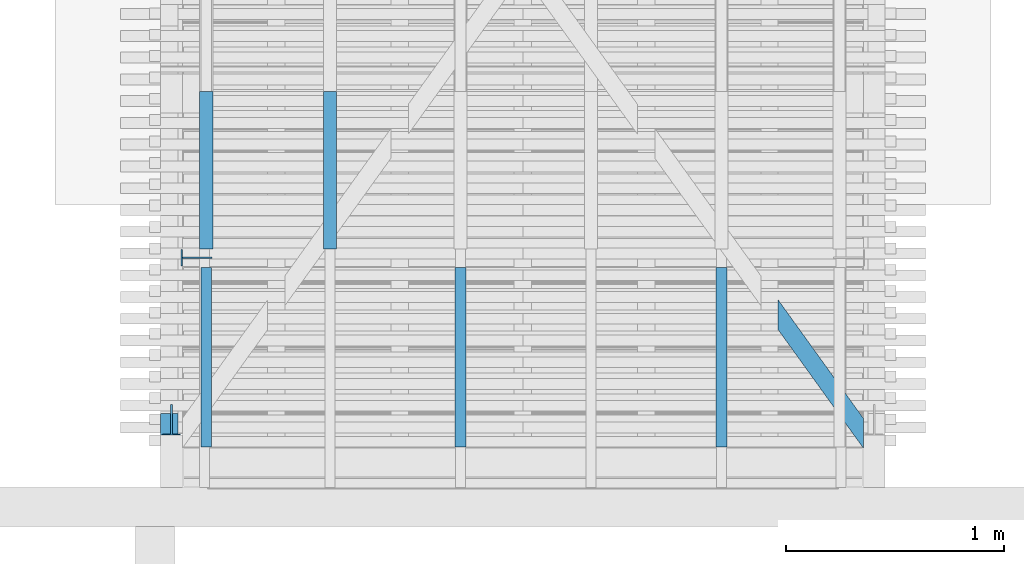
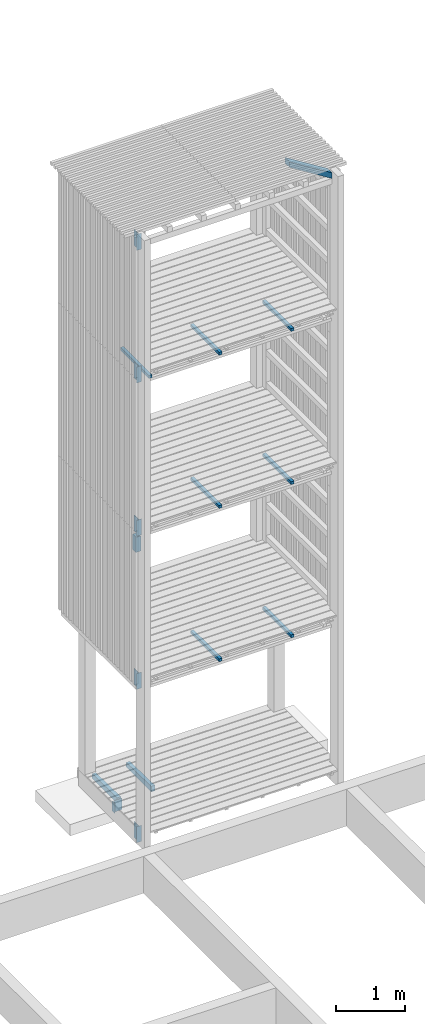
# One storey, part 178 of 182: 17 beams.
"""IFC2X3 building model written with IfcOpenShell, lengths in metres."""

from ifc_helpers import new_model, si_unit, frame, origin, place, context, project, spatial, faceted_brep, element, save


model = new_model("IFC2X3")

# Units and contexts
model_context = context("Model", 3, precision=1e-06, world=origin())
ifc_project = project(units=[si_unit("LENGTHUNIT", "METRE"), si_unit("PLANEANGLEUNIT", "RADIAN")], contexts=[model_context])

# Site, building, storey
site = spatial("IfcSite", under=ifc_project, CompositionType="ELEMENT")
building = spatial("IfcBuilding", under=site, CompositionType="ELEMENT")
storey = spatial("IfcBuildingStorey", under=building, Name="vs", CompositionType="ELEMENT", Elevation=-0.85)

# Beams
placement = place(None, origin())
beam_1_placement = place(placement, frame((34.432999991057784, 10.655077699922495, 5.217999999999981), z_axis=(0.0, 0.0, 1.0), x_axis=(0.0, 1.0, 0.0)))
element("IfcBeam", 1, at=beam_1_placement, inside=storey, Name="Calage", context=model_context, shape_type="Brep", body=[
    faceted_brep([(0.824999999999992, -0.025000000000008, 0.024999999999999), (0.824999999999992, 0.024999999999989, 0.024999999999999), (-1e-15, 0.024999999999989, 0.024999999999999), (-1e-15, -0.025000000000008, 0.024999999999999), (-1e-15, 0.024999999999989, 0.024999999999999), (0.824999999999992, 0.024999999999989, 0.024999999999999), (0.824999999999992, 0.024999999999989, -0.025), (-1e-15, 0.024999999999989, -0.025), (0.824999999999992, 0.024999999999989, 0.024999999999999), (0.824999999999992, -0.025000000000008, 0.024999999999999), (0.824999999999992, -0.025000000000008, -0.025), (0.824999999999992, 0.024999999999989, -0.025), (0.824999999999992, -0.025000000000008, -0.025), (0.824999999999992, -0.025000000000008, 0.024999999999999), (-1e-15, -0.025000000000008, 0.024999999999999), (-1e-15, -0.025000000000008, -0.025), (-1e-15, 0.024999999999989, -0.025), (0.824999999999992, 0.024999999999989, -0.025), (0.824999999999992, -0.025000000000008, -0.025), (-1e-15, -0.025000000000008, -0.025), (-1e-15, 0.024999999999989, 0.024999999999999), (-1e-15, 0.024999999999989, -0.025), (-1e-15, -0.025000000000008, -0.025), (-1e-15, -0.025000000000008, 0.024999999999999)], [[[0, 1, 2, 3]], [[4, 5, 6, 7]], [[8, 9, 10, 11]], [[12, 13, 14, 15]], [[16, 17, 18, 19]], [[20, 21, 22, 23]]]),
])
for number, where, z_axis, x_axis in (
    (2, (35.63299999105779, 10.655077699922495, 7.917999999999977), (0.0, 0.0, 1.0), (0.0, 1.0, 0.0)),
    (3, (35.63299999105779, 10.655077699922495, 5.217999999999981), (0.0, 0.0, 1.0), (0.0, 1.0, 0.0)),
):
    element("IfcBeam", number, at=place(placement, frame(where, z_axis=z_axis, x_axis=x_axis)), inside=storey, Name="Calage", context=model_context, shape_type="Brep", body=[
        faceted_brep([(0.824999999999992, -0.025000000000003, 0.024999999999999), (0.824999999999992, 0.024999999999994, 0.024999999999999), (-1e-15, 0.024999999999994, 0.024999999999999), (-1e-15, -0.025000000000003, 0.024999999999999), (-1e-15, 0.024999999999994, 0.024999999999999), (0.824999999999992, 0.024999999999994, 0.024999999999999), (0.824999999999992, 0.024999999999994, -0.025), (-1e-15, 0.024999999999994, -0.025), (0.824999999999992, 0.024999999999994, 0.024999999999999), (0.824999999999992, -0.025000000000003, 0.024999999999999), (0.824999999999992, -0.025000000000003, -0.025), (0.824999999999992, 0.024999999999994, -0.025), (0.824999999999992, -0.025000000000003, -0.025), (0.824999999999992, -0.025000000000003, 0.024999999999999), (-1e-15, -0.025000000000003, 0.024999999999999), (-1e-15, -0.025000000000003, -0.025), (-1e-15, 0.024999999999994, -0.025), (0.824999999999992, 0.024999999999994, -0.025), (0.824999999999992, -0.025000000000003, -0.025), (-1e-15, -0.025000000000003, -0.025), (-1e-15, 0.024999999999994, 0.024999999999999), (-1e-15, 0.024999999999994, -0.025), (-1e-15, -0.025000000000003, -0.025), (-1e-15, -0.025000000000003, 0.024999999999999)], [[[0, 1, 2, 3]], [[4, 5, 6, 7]], [[8, 9, 10, 11]], [[12, 13, 14, 15]], [[16, 17, 18, 19]], [[20, 21, 22, 23]]]),
    ])
beam_2_placement = place(placement, frame((36.317471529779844, 10.673435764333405, 10.404999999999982), z_axis=(0.0, 0.0, 1.0), x_axis=(-0.58395161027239, 0.811788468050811, 0.0)))
element("IfcBeam", 4, at=beam_2_placement, inside=storey, Name="Support bardage", context=model_context, shape_type="Brep", body=[
    faceted_brep([(2e-15, 0.040000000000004, -0.050000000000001), (0.111213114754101, -0.039999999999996, -0.049999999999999), (0.111213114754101, -0.039999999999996, 0.050000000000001), (2e-15, 0.040000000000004, 0.050000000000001), (0.111213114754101, -0.039999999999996, -0.049999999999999), (2e-15, 0.040000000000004, -0.050000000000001), (0.670717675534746, 0.04, -0.050000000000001), (0.781930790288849, -0.040000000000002, -0.050000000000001), (0.111213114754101, -0.039999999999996, 0.050000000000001), (0.111213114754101, -0.039999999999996, -0.049999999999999), (0.781930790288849, -0.040000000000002, -0.050000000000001), (0.781930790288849, -0.040000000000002, 0.050000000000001), (2e-15, 0.040000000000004, 0.050000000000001), (0.111213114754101, -0.039999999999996, 0.050000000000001), (0.781930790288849, -0.040000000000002, 0.050000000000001), (0.670717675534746, 0.04, 0.050000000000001), (0.670717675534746, 0.04, -0.050000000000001), (2e-15, 0.040000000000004, -0.050000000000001), (2e-15, 0.040000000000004, 0.050000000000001), (0.670717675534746, 0.04, 0.050000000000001), (0.670717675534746, 0.04, 0.050000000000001), (0.781930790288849, -0.040000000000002, 0.050000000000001), (0.781930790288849, -0.040000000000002, -0.050000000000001), (0.670717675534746, 0.04, -0.050000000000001)], [[[0, 1, 2, 3]], [[4, 5, 6, 7]], [[8, 9, 10, 11]], [[12, 13, 14, 15]], [[16, 17, 18, 19]], [[20, 21, 22, 23]]]),
])
beam_3_placement = place(placement, frame((34.432999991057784, 10.655077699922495, 2.517999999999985), z_axis=(0.0, 0.0, 1.0), x_axis=(0.0, 1.0, 0.0)))
element("IfcBeam", 5, at=beam_3_placement, inside=storey, Name="Calage", context=model_context, shape_type="Brep", body=[
    faceted_brep([(0.824999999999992, -0.025000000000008, 0.025), (0.824999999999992, 0.024999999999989, 0.025), (-1e-15, 0.024999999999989, 0.025), (-1e-15, -0.025000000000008, 0.025), (-1e-15, 0.024999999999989, 0.025), (0.824999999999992, 0.024999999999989, 0.025), (0.824999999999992, 0.024999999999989, -0.025), (-1e-15, 0.024999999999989, -0.025), (0.824999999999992, 0.024999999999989, 0.025), (0.824999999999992, -0.025000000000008, 0.025), (0.824999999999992, -0.025000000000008, -0.025), (0.824999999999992, 0.024999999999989, -0.025), (0.824999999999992, -0.025000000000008, -0.025), (0.824999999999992, -0.025000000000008, 0.025), (-1e-15, -0.025000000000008, 0.025), (-1e-15, -0.025000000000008, -0.025), (-1e-15, 0.024999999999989, -0.025), (0.824999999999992, 0.024999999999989, -0.025), (0.824999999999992, -0.025000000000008, -0.025), (-1e-15, -0.025000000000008, -0.025), (-1e-15, 0.024999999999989, 0.025), (-1e-15, 0.024999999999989, -0.025), (-1e-15, -0.025000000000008, -0.025), (-1e-15, -0.025000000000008, 0.025)], [[[0, 1, 2, 3]], [[4, 5, 6, 7]], [[8, 9, 10, 11]], [[12, 13, 14, 15]], [[16, 17, 18, 19]], [[20, 21, 22, 23]]]),
])
beam_4_placement = place(placement, frame((33.83299999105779, 11.565077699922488, -0.091949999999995), z_axis=(0.0, 0.0, 1.0), x_axis=(0.0, 1.0, 0.0)))
element("IfcBeam", 6, at=beam_4_placement, inside=storey, Name="Solive", context=model_context, shape_type="Brep", body=[
    faceted_brep([(0.0, -0.030000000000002, -0.04805), (0.0, 0.030000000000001, -0.04805), (0.725000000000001, 0.030000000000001, -0.04805), (0.725000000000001, -0.030000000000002, -0.04805), (0.725000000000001, -0.030000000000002, 0.033549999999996), (0.0, -0.030000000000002, 0.048049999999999), (0.0, -0.030000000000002, -0.04805), (0.725000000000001, -0.030000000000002, -0.04805), (0.0, -0.030000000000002, 0.048049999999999), (0.725000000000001, -0.030000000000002, 0.033549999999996), (0.725000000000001, 0.030000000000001, 0.033549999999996), (0.0, 0.030000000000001, 0.048049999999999), (0.0, -0.030000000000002, 0.048049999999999), (0.0, 0.030000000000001, 0.048049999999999), (0.0, 0.030000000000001, -0.04805), (0.0, -0.030000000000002, -0.04805), (0.0, 0.030000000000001, -0.04805), (0.0, 0.030000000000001, 0.048049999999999), (0.725000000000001, 0.030000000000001, 0.033549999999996), (0.725000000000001, 0.030000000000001, -0.04805), (0.725000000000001, -0.030000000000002, 0.033549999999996), (0.725000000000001, -0.030000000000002, -0.04805), (0.725000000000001, 0.030000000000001, -0.04805), (0.725000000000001, 0.030000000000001, 0.033549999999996)], [[[0, 1, 2, 3]], [[4, 5, 6, 7]], [[8, 9, 10, 11]], [[12, 13, 14, 15]], [[16, 17, 18, 19]], [[20, 21, 22, 23]]]),
])
beam_5_placement = place(placement, frame((35.63299999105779, 10.655077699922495, 2.517999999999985), z_axis=(0.0, 0.0, 1.0), x_axis=(0.0, 1.0, 0.0)))
element("IfcBeam", 7, at=beam_5_placement, inside=storey, Name="Calage", context=model_context, shape_type="Brep", body=[
    faceted_brep([(0.824999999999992, -0.025000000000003, 0.025), (0.824999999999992, 0.024999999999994, 0.025), (-1e-15, 0.024999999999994, 0.025), (-1e-15, -0.025000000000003, 0.025), (-1e-15, 0.024999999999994, 0.025), (0.824999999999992, 0.024999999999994, 0.025), (0.824999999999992, 0.024999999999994, -0.025), (-1e-15, 0.024999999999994, -0.025), (0.824999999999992, 0.024999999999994, 0.025), (0.824999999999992, -0.025000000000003, 0.025), (0.824999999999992, -0.025000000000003, -0.025), (0.824999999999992, 0.024999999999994, -0.025), (0.824999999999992, -0.025000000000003, -0.025), (0.824999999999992, -0.025000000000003, 0.025), (-1e-15, -0.025000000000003, 0.025), (-1e-15, -0.025000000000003, -0.025), (-1e-15, 0.024999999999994, -0.025), (0.824999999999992, 0.024999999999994, -0.025), (0.824999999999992, -0.025000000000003, -0.025), (-1e-15, -0.025000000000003, -0.025), (-1e-15, 0.024999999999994, 0.025), (-1e-15, 0.024999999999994, -0.025), (-1e-15, -0.025000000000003, -0.025), (-1e-15, -0.025000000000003, 0.025)], [[[0, 1, 2, 3]], [[4, 5, 6, 7]], [[8, 9, 10, 11]], [[12, 13, 14, 15]], [[16, 17, 18, 19]], [[20, 21, 22, 23]]]),
])
beam_6_placement = place(placement, frame((33.26499999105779, 11.565077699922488, -0.091949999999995), z_axis=(0.0, 0.0, 1.0), x_axis=(0.0, 1.0, 0.0)))
element("IfcBeam", 8, at=beam_6_placement, inside=storey, Name="Solive", context=model_context, shape_type="Brep", body=[
    faceted_brep([(0.0, -0.030000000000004, -0.04805), (0.0, 0.029999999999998, -0.04805), (0.725000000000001, 0.029999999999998, -0.04805), (0.725000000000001, -0.030000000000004, -0.04805), (0.725000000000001, -0.030000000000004, 0.033549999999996), (0.0, -0.030000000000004, 0.048049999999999), (0.0, -0.030000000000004, -0.04805), (0.725000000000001, -0.030000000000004, -0.04805), (0.0, -0.030000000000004, 0.048049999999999), (0.725000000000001, -0.030000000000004, 0.033549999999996), (0.725000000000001, 0.029999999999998, 0.033549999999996), (0.0, 0.029999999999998, 0.048049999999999), (0.0, -0.030000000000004, 0.048049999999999), (0.0, 0.029999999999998, 0.048049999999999), (0.0, 0.029999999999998, -0.04805), (0.0, -0.030000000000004, -0.04805), (0.0, 0.029999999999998, -0.04805), (0.0, 0.029999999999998, 0.048049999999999), (0.725000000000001, 0.029999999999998, 0.033549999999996), (0.725000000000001, 0.029999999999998, -0.04805), (0.725000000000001, -0.030000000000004, 0.033549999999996), (0.725000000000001, -0.030000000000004, -0.04805), (0.725000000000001, 0.029999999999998, -0.04805), (0.725000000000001, 0.029999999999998, 0.033549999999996)], [[[0, 1, 2, 3]], [[4, 5, 6, 7]], [[8, 9, 10, 11]], [[12, 13, 14, 15]], [[16, 17, 18, 19]], [[20, 21, 22, 23]]]),
])
beam_7_placement = place(placement, frame((33.0639999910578, 10.781077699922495, 10.314999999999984), z_axis=(0.0, 0.0, 1.0), x_axis=(1.0, 0.0, 0.0)))
element("IfcBeam", 9, at=beam_7_placement, inside=storey, Name="Contre-usinage", context=model_context, shape_type="Brep", body=[
    faceted_brep([(0.037000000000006, -0.065999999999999, -0.140000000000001), (0.037000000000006, 0.071000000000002, -0.140000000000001), (0.045000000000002, 0.071000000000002, -0.140000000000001), (0.045000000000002, -0.065999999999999, -0.140000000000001), (0.081999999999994, -0.065999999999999, -0.140000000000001), (0.081999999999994, -0.071000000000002, -0.140000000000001), (0.0, -0.071000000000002, -0.140000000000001), (0.0, -0.065999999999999, -0.140000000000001), (0.045000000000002, 0.071000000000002, -0.140000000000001), (0.037000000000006, 0.071000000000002, -0.140000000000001), (0.037000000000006, 0.071000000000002, 0.140000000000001), (0.045000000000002, 0.071000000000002, 0.140000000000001), (0.045000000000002, -0.065999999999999, 0.140000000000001), (0.045000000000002, -0.065999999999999, -0.140000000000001), (0.045000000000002, 0.071000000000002, -0.140000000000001), (0.045000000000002, 0.071000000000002, 0.140000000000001), (0.081999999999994, -0.065999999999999, -0.140000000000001), (0.045000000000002, -0.065999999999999, -0.140000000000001), (0.045000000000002, -0.065999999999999, 0.140000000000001), (0.081999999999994, -0.065999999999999, 0.140000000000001), (0.081999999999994, -0.071000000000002, -0.140000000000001), (0.081999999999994, -0.065999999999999, -0.140000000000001), (0.081999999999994, -0.065999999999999, 0.140000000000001), (0.081999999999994, -0.071000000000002, 0.140000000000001), (0.0, -0.071000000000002, -0.140000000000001), (0.081999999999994, -0.071000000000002, -0.140000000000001), (0.081999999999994, -0.071000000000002, 0.140000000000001), (0.0, -0.071000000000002, 0.140000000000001), (0.0, -0.065999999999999, -0.140000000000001), (0.0, -0.071000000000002, -0.140000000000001), (0.0, -0.071000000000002, 0.140000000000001), (0.0, -0.065999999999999, 0.140000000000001), (0.037000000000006, -0.065999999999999, -0.140000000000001), (0.0, -0.065999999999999, -0.140000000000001), (0.0, -0.065999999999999, 0.140000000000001), (0.037000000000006, -0.065999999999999, 0.140000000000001), (0.037000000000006, 0.071000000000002, 0.140000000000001), (0.037000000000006, 0.071000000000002, -0.140000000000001), (0.037000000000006, -0.065999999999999, -0.140000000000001), (0.037000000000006, -0.065999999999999, 0.140000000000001), (0.081999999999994, -0.065999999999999, 0.140000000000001), (0.045000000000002, -0.065999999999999, 0.140000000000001), (0.045000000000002, 0.071000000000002, 0.140000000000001), (0.037000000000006, 0.071000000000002, 0.140000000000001), (0.037000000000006, -0.065999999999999, 0.140000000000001), (0.0, -0.065999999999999, 0.140000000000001), (0.0, -0.071000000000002, 0.140000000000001), (0.081999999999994, -0.071000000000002, 0.140000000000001)], [[[0, 1, 2, 3, 4, 5, 6, 7]], [[8, 9, 10, 11]], [[12, 13, 14, 15]], [[16, 17, 18, 19]], [[20, 21, 22, 23]], [[24, 25, 26, 27]], [[28, 29, 30, 31]], [[32, 33, 34, 35]], [[36, 37, 38, 39]], [[40, 41, 42, 43, 44, 45, 46, 47]]]),
])
beam_8_placement = place(placement, frame((34.4329999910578, 10.655077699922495, 7.917999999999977), z_axis=(0.0, 0.0, 1.0), x_axis=(0.0, 1.0, 0.0)))
element("IfcBeam", 10, at=beam_8_placement, inside=storey, Name="Calage", context=model_context, shape_type="Brep", body=[
    faceted_brep([(0.824999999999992, -0.024999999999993, 0.024999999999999), (0.824999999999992, 0.025000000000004, 0.024999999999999), (-1e-15, 0.025000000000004, 0.024999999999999), (-1e-15, -0.024999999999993, 0.024999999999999), (-1e-15, 0.025000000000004, 0.024999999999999), (0.824999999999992, 0.025000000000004, 0.024999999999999), (0.824999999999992, 0.025000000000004, -0.025), (-1e-15, 0.025000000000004, -0.025), (0.824999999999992, 0.025000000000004, 0.024999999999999), (0.824999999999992, -0.024999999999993, 0.024999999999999), (0.824999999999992, -0.024999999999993, -0.025), (0.824999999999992, 0.025000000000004, -0.025), (0.824999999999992, -0.024999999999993, -0.025), (0.824999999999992, -0.024999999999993, 0.024999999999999), (-1e-15, -0.024999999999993, 0.024999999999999), (-1e-15, -0.024999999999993, -0.025), (-1e-15, 0.025000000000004, -0.025), (0.824999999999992, 0.025000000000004, -0.025), (0.824999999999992, -0.024999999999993, -0.025), (-1e-15, -0.024999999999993, -0.025), (-1e-15, 0.025000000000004, 0.024999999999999), (-1e-15, 0.025000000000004, -0.025), (-1e-15, -0.024999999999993, -0.025), (-1e-15, -0.024999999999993, 0.024999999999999)], [[[0, 1, 2, 3]], [[4, 5, 6, 7]], [[8, 9, 10, 11]], [[12, 13, 14, 15]], [[16, 17, 18, 19]], [[20, 21, 22, 23]]]),
])
beam_9_placement = place(placement, frame((33.220999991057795, 11.525077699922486, -0.243899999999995), z_axis=(1.0, 0.0, 0.0), x_axis=(0.0, 0.0, 1.0)))
element("IfcBeam", 11, at=beam_9_placement, inside=storey, Name="Contre-usinage", context=model_context, shape_type="Brep", body=[
    faceted_brep([(0.2, 0.004000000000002, -0.066000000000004), (0.2, -0.004000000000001, -0.066000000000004), (0.175, -0.004000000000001, -0.066000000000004), (0.175, 0.004000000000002, -0.066000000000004), (0.175, -0.004000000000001, -0.066000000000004), (0.0, -0.004000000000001, -0.066000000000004), (0.0, -0.038, -0.066000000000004), (0.175, -0.038, -0.066000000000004), (0.175, 0.038000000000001, -0.066000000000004), (0.0, 0.038000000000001, -0.066000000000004), (0.0, 0.004000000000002, -0.066000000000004), (0.175, 0.004000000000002, -0.066000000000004), (0.2, 0.004000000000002, -0.066000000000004), (0.175, 0.004000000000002, -0.066000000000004), (0.0, 0.004000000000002, -0.066000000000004), (0.0, 0.004000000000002, 0.070999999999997), (0.2, 0.004000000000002, 0.070999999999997), (0.2, 0.004000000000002, 0.070999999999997), (0.0, 0.004000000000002, 0.070999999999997), (0.0, -0.004000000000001, 0.070999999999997), (0.2, -0.004000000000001, 0.070999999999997), (0.175, -0.038, -0.070999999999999), (0.0, -0.038, -0.070999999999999), (0.0, 0.038000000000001, -0.070999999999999), (0.175, 0.038000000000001, -0.070999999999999), (0.2, -0.004000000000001, -0.066000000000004), (0.2, 0.004000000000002, -0.066000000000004), (0.2, 0.004000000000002, 0.070999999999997), (0.2, -0.004000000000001, 0.070999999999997), (0.2, -0.004000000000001, 0.070999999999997), (0.0, -0.004000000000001, 0.070999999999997), (0.0, -0.004000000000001, -0.066000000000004), (0.175, -0.004000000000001, -0.066000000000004), (0.2, -0.004000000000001, -0.066000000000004), (0.175, 0.038000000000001, -0.066000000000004), (0.175, 0.004000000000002, -0.066000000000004), (0.175, -0.004000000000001, -0.066000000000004), (0.175, -0.038, -0.066000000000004), (0.175, -0.038, -0.070999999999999), (0.175, 0.038000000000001, -0.070999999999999), (0.0, -0.038, -0.066000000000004), (0.0, -0.004000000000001, -0.066000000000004), (0.0, -0.004000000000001, 0.070999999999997), (0.0, 0.004000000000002, 0.070999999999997), (0.0, 0.004000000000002, -0.066000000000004), (0.0, 0.038000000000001, -0.066000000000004), (0.0, 0.038000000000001, -0.070999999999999), (0.0, -0.038, -0.070999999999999), (0.175, -0.038, -0.070999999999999), (0.175, -0.038, -0.066000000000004), (0.0, -0.038, -0.066000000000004), (0.0, -0.038, -0.070999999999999), (0.175, 0.038000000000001, -0.066000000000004), (0.175, 0.038000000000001, -0.070999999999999), (0.0, 0.038000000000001, -0.070999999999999), (0.0, 0.038000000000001, -0.066000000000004)], [[[0, 1, 2, 3]], [[4, 5, 6, 7]], [[8, 9, 10, 11]], [[12, 13, 14, 15, 16]], [[17, 18, 19, 20]], [[21, 22, 23, 24]], [[25, 26, 27, 28]], [[29, 30, 31, 32, 33]], [[34, 35, 36, 37, 38, 39]], [[40, 41, 42, 43, 44, 45, 46, 47]], [[48, 49, 50, 51]], [[52, 53, 54, 55]]]),
])
beam_10_placement = place(placement, frame((33.063999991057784, 10.781077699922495, 2.579999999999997), z_axis=(0.0, 0.0, 1.0), x_axis=(1.0, 0.0, 0.0)))
element("IfcBeam", 12, at=beam_10_placement, inside=storey, Name="Contre-usinage", context=model_context, shape_type="Brep", body=[
    faceted_brep([(0.037000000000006, -0.065999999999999, -0.14), (0.037000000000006, 0.071000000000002, -0.14), (0.045000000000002, 0.071000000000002, -0.14), (0.045000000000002, -0.065999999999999, -0.14), (0.082000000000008, -0.065999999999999, -0.14), (0.082000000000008, -0.071000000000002, -0.14), (0.0, -0.071000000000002, -0.14), (0.0, -0.065999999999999, -0.14), (0.045000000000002, 0.071000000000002, -0.14), (0.037000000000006, 0.071000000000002, -0.14), (0.037000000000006, 0.071000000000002, 0.14), (0.045000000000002, 0.071000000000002, 0.14), (0.045000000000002, -0.065999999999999, 0.14), (0.045000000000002, -0.065999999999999, -0.14), (0.045000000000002, 0.071000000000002, -0.14), (0.045000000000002, 0.071000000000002, 0.14), (0.082000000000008, -0.065999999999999, -0.14), (0.045000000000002, -0.065999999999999, -0.14), (0.045000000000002, -0.065999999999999, 0.14), (0.082000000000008, -0.065999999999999, 0.14), (0.082000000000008, -0.071000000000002, -0.14), (0.082000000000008, -0.065999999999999, -0.14), (0.082000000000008, -0.065999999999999, 0.14), (0.082000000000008, -0.071000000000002, 0.14), (0.0, -0.071000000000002, -0.14), (0.082000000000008, -0.071000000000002, -0.14), (0.082000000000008, -0.071000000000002, 0.14), (0.0, -0.071000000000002, 0.14), (0.0, -0.065999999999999, -0.14), (0.0, -0.071000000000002, -0.14), (0.0, -0.071000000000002, 0.14), (0.0, -0.065999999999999, 0.14), (0.037000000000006, -0.065999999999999, -0.14), (0.0, -0.065999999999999, -0.14), (0.0, -0.065999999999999, 0.14), (0.037000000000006, -0.065999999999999, 0.14), (0.037000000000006, 0.071000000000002, 0.14), (0.037000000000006, 0.071000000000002, -0.14), (0.037000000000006, -0.065999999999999, -0.14), (0.037000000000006, -0.065999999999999, 0.14), (0.082000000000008, -0.065999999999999, 0.14), (0.045000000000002, -0.065999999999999, 0.14), (0.045000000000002, 0.071000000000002, 0.14), (0.037000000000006, 0.071000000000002, 0.14), (0.037000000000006, -0.065999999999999, 0.14), (0.0, -0.065999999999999, 0.14), (0.0, -0.071000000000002, 0.14), (0.082000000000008, -0.071000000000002, 0.14)], [[[0, 1, 2, 3, 4, 5, 6, 7]], [[8, 9, 10, 11]], [[12, 13, 14, 15]], [[16, 17, 18, 19]], [[20, 21, 22, 23]], [[24, 25, 26, 27]], [[28, 29, 30, 31]], [[32, 33, 34, 35]], [[36, 37, 38, 39]], [[40, 41, 42, 43, 44, 45, 46, 47]]]),
])
beam_11_placement = place(placement, frame((33.063999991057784, 10.781077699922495, -0.119999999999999), z_axis=(0.0, 0.0, 1.0), x_axis=(1.0, 0.0, 0.0)))
element("IfcBeam", 13, at=beam_11_placement, inside=storey, Name="Contre-usinage", context=model_context, shape_type="Brep", body=[
    faceted_brep([(0.037000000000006, -0.065999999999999, -0.14), (0.037000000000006, 0.071000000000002, -0.14), (0.045000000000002, 0.071000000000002, -0.14), (0.045000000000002, -0.065999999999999, -0.14), (0.082000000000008, -0.065999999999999, -0.14), (0.082000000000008, -0.071000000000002, -0.14), (0.0, -0.071000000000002, -0.14), (0.0, -0.065999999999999, -0.14), (0.045000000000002, 0.071000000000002, -0.14), (0.037000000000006, 0.071000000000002, -0.14), (0.037000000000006, 0.071000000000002, 0.14), (0.045000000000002, 0.071000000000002, 0.14), (0.045000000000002, -0.065999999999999, 0.14), (0.045000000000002, -0.065999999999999, -0.14), (0.045000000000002, 0.071000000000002, -0.14), (0.045000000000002, 0.071000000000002, 0.14), (0.082000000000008, -0.065999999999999, -0.14), (0.045000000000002, -0.065999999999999, -0.14), (0.045000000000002, -0.065999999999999, 0.14), (0.082000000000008, -0.065999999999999, 0.14), (0.082000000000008, -0.071000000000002, -0.14), (0.082000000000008, -0.065999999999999, -0.14), (0.082000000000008, -0.065999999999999, 0.14), (0.082000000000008, -0.071000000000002, 0.14), (0.0, -0.071000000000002, -0.14), (0.082000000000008, -0.071000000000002, -0.14), (0.082000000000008, -0.071000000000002, 0.14), (0.0, -0.071000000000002, 0.14), (0.0, -0.065999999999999, -0.14), (0.0, -0.071000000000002, -0.14), (0.0, -0.071000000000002, 0.14), (0.0, -0.065999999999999, 0.14), (0.037000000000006, -0.065999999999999, -0.14), (0.0, -0.065999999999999, -0.14), (0.0, -0.065999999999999, 0.14), (0.037000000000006, -0.065999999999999, 0.14), (0.037000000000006, 0.071000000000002, 0.14), (0.037000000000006, 0.071000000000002, -0.14), (0.037000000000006, -0.065999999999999, -0.14), (0.037000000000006, -0.065999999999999, 0.14), (0.082000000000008, -0.065999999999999, 0.14), (0.045000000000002, -0.065999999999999, 0.14), (0.045000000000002, 0.071000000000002, 0.14), (0.037000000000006, 0.071000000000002, 0.14), (0.037000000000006, -0.065999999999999, 0.14), (0.0, -0.065999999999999, 0.14), (0.0, -0.071000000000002, 0.14), (0.082000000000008, -0.071000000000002, 0.14)], [[[0, 1, 2, 3, 4, 5, 6, 7]], [[8, 9, 10, 11]], [[12, 13, 14, 15]], [[16, 17, 18, 19]], [[20, 21, 22, 23]], [[24, 25, 26, 27]], [[28, 29, 30, 31]], [[32, 33, 34, 35]], [[36, 37, 38, 39]], [[40, 41, 42, 43, 44, 45, 46, 47]]]),
])
beam_12_placement = place(placement, frame((33.0639999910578, 10.781077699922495, 7.979999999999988), z_axis=(0.0, 0.0, 1.0), x_axis=(1.0, 0.0, 0.0)))
element("IfcBeam", 14, at=beam_12_placement, inside=storey, Name="Contre-usinage", context=model_context, shape_type="Brep", body=[
    faceted_brep([(0.036999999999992, -0.065999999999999, -0.14), (0.036999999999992, 0.071000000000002, -0.14), (0.044999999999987, 0.071000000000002, -0.14), (0.044999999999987, -0.065999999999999, -0.14), (0.081999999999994, -0.065999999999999, -0.14), (0.081999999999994, -0.071000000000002, -0.14), (0.0, -0.071000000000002, -0.14), (0.0, -0.065999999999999, -0.14), (0.044999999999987, 0.071000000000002, -0.14), (0.036999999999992, 0.071000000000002, -0.14), (0.036999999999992, 0.071000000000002, 0.140000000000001), (0.044999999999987, 0.071000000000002, 0.140000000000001), (0.044999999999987, -0.065999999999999, 0.140000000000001), (0.044999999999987, -0.065999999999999, -0.14), (0.044999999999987, 0.071000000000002, -0.14), (0.044999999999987, 0.071000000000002, 0.140000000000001), (0.081999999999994, -0.065999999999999, -0.14), (0.044999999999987, -0.065999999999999, -0.14), (0.044999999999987, -0.065999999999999, 0.140000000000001), (0.081999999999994, -0.065999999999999, 0.140000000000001), (0.081999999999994, -0.071000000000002, -0.14), (0.081999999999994, -0.065999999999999, -0.14), (0.081999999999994, -0.065999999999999, 0.140000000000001), (0.081999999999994, -0.071000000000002, 0.140000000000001), (0.0, -0.071000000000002, -0.14), (0.081999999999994, -0.071000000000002, -0.14), (0.081999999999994, -0.071000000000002, 0.140000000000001), (0.0, -0.071000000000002, 0.140000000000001), (0.0, -0.065999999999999, -0.14), (0.0, -0.071000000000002, -0.14), (0.0, -0.071000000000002, 0.140000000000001), (0.0, -0.065999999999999, 0.140000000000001), (0.036999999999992, -0.065999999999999, -0.14), (0.0, -0.065999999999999, -0.14), (0.0, -0.065999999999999, 0.140000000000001), (0.036999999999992, -0.065999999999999, 0.140000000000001), (0.036999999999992, 0.071000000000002, 0.140000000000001), (0.036999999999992, 0.071000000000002, -0.14), (0.036999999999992, -0.065999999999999, -0.14), (0.036999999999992, -0.065999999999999, 0.140000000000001), (0.081999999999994, -0.065999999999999, 0.140000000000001), (0.044999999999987, -0.065999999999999, 0.140000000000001), (0.044999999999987, 0.071000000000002, 0.140000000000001), (0.036999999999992, 0.071000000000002, 0.140000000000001), (0.036999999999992, -0.065999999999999, 0.140000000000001), (0.0, -0.065999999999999, 0.140000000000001), (0.0, -0.071000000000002, 0.140000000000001), (0.081999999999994, -0.071000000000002, 0.140000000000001)], [[[0, 1, 2, 3, 4, 5, 6, 7]], [[8, 9, 10, 11]], [[12, 13, 14, 15]], [[16, 17, 18, 19]], [[20, 21, 22, 23]], [[24, 25, 26, 27]], [[28, 29, 30, 31]], [[32, 33, 34, 35]], [[36, 37, 38, 39]], [[40, 41, 42, 43, 44, 45, 46, 47]]]),
])
beam_13_placement = place(placement, frame((33.063999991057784, 10.781077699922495, 5.279999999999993), z_axis=(0.0, 0.0, 1.0), x_axis=(1.0, 0.0, 0.0)))
element("IfcBeam", 15, at=beam_13_placement, inside=storey, Name="Contre-usinage", context=model_context, shape_type="Brep", body=[
    faceted_brep([(0.037000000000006, -0.065999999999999, -0.140000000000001), (0.037000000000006, 0.071000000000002, -0.140000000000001), (0.045000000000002, 0.071000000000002, -0.140000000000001), (0.045000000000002, -0.065999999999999, -0.140000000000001), (0.082000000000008, -0.065999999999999, -0.140000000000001), (0.082000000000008, -0.071000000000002, -0.140000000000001), (0.0, -0.071000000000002, -0.140000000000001), (0.0, -0.065999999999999, -0.140000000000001), (0.045000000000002, 0.071000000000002, -0.140000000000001), (0.037000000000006, 0.071000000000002, -0.140000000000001), (0.037000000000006, 0.071000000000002, 0.140000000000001), (0.045000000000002, 0.071000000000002, 0.140000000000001), (0.045000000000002, -0.065999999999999, 0.140000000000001), (0.045000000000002, -0.065999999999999, -0.140000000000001), (0.045000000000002, 0.071000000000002, -0.140000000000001), (0.045000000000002, 0.071000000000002, 0.140000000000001), (0.082000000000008, -0.065999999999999, -0.140000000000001), (0.045000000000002, -0.065999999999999, -0.140000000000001), (0.045000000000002, -0.065999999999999, 0.140000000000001), (0.082000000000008, -0.065999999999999, 0.140000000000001), (0.082000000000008, -0.071000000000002, -0.140000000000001), (0.082000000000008, -0.065999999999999, -0.140000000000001), (0.082000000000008, -0.065999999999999, 0.140000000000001), (0.082000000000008, -0.071000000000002, 0.140000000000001), (0.0, -0.071000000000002, -0.140000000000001), (0.082000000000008, -0.071000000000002, -0.140000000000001), (0.082000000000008, -0.071000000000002, 0.140000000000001), (0.0, -0.071000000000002, 0.140000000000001), (0.0, -0.065999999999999, -0.140000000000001), (0.0, -0.071000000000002, -0.140000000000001), (0.0, -0.071000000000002, 0.140000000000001), (0.0, -0.065999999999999, 0.140000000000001), (0.037000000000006, -0.065999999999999, -0.140000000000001), (0.0, -0.065999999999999, -0.140000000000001), (0.0, -0.065999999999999, 0.140000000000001), (0.037000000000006, -0.065999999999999, 0.140000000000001), (0.037000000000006, 0.071000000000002, 0.140000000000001), (0.037000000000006, 0.071000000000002, -0.140000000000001), (0.037000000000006, -0.065999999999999, -0.140000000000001), (0.037000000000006, -0.065999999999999, 0.140000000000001), (0.082000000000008, -0.065999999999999, 0.140000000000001), (0.045000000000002, -0.065999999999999, 0.140000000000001), (0.045000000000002, 0.071000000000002, 0.140000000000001), (0.037000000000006, 0.071000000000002, 0.140000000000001), (0.037000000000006, -0.065999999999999, 0.140000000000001), (0.0, -0.065999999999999, 0.140000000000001), (0.0, -0.071000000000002, 0.140000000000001), (0.082000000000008, -0.071000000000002, 0.140000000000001)], [[[0, 1, 2, 3, 4, 5, 6, 7]], [[8, 9, 10, 11]], [[12, 13, 14, 15]], [[16, 17, 18, 19]], [[20, 21, 22, 23]], [[24, 25, 26, 27]], [[28, 29, 30, 31]], [[32, 33, 34, 35]], [[36, 37, 38, 39]], [[40, 41, 42, 43, 44, 45, 46, 47]]]),
])
beam_14_placement = place(placement, frame((33.26499999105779, 10.655077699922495, 7.917999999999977), z_axis=(0.0, 0.0, 1.0), x_axis=(0.0, 1.0, 0.0)))
element("IfcBeam", 16, at=beam_14_placement, inside=storey, Name="Calage", context=model_context, shape_type="Brep", body=[
    faceted_brep([(0.824999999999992, -0.025000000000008, 0.024999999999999), (0.824999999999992, 0.024999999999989, 0.024999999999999), (-1e-15, 0.024999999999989, 0.024999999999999), (-1e-15, -0.025000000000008, 0.024999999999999), (-1e-15, 0.024999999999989, 0.024999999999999), (0.824999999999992, 0.024999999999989, 0.024999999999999), (0.824999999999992, 0.024999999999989, -0.025), (-1e-15, 0.024999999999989, -0.025), (0.824999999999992, 0.024999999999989, 0.024999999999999), (0.824999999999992, -0.025000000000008, 0.024999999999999), (0.824999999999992, -0.025000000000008, -0.025), (0.824999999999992, 0.024999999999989, -0.025), (0.824999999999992, -0.025000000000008, -0.025), (0.824999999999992, -0.025000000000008, 0.024999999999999), (-1e-15, -0.025000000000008, 0.024999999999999), (-1e-15, -0.025000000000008, -0.025), (-1e-15, 0.024999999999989, -0.025), (0.824999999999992, 0.024999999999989, -0.025), (0.824999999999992, -0.025000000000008, -0.025), (-1e-15, -0.025000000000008, -0.025), (-1e-15, 0.024999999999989, 0.024999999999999), (-1e-15, 0.024999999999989, -0.025), (-1e-15, -0.025000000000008, -0.025), (-1e-15, -0.025000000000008, 0.024999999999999)], [[[0, 1, 2, 3]], [[4, 5, 6, 7]], [[8, 9, 10, 11]], [[12, 13, 14, 15]], [[16, 17, 18, 19]], [[20, 21, 22, 23]]]),
])
beam_15_placement = place(placement, frame((33.09499999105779, 10.760077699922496, 4.85796194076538), z_axis=(0.0, 1.0, 0.0), x_axis=(0.0, 0.0, 1.0)))
element("IfcBeam", 17, at=beam_15_placement, inside=storey, Name="Support bardage", context=model_context, shape_type="Brep", body=[
    faceted_brep([(0.267038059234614, -0.039999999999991, 0.05), (0.267038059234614, -0.039999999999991, -0.050000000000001), (0.267038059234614, 0.040000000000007, -0.050000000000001), (0.267038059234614, 0.040000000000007, 0.05), (0.267038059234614, 0.040000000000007, -0.050000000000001), (0.267038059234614, -0.039999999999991, -0.050000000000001), (0.0, -0.039999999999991, -0.050000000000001), (0.0, 0.040000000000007, -0.050000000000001), (0.267038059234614, 0.040000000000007, 0.05), (0.267038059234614, 0.040000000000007, -0.050000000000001), (0.0, 0.040000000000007, -0.050000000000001), (0.0, 0.040000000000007, 0.05), (0.267038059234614, -0.039999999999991, -0.050000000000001), (0.267038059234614, -0.039999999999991, 0.05), (0.0, -0.039999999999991, 0.05), (0.0, -0.039999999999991, -0.050000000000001), (0.267038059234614, -0.039999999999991, 0.05), (0.267038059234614, 0.040000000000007, 0.05), (0.0, 0.040000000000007, 0.05), (0.0, -0.039999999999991, 0.05), (0.0, -0.039999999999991, -0.050000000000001), (0.0, -0.039999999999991, 0.05), (0.0, 0.040000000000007, 0.05), (0.0, 0.040000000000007, -0.050000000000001)], [[[0, 1, 2, 3]], [[4, 5, 6, 7]], [[8, 9, 10, 11]], [[12, 13, 14, 15]], [[16, 17, 18, 19]], [[20, 21, 22, 23]]]),
])

save(model, "model.ifc")
